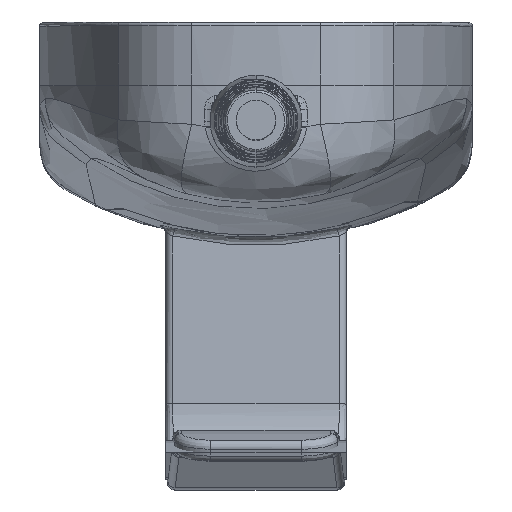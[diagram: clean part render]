
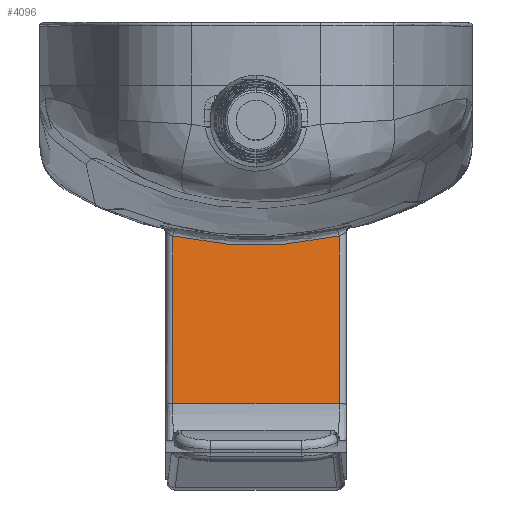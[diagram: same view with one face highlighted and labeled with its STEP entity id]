
A CAD part, top view. The second image highlights one B-rep face of the part: STEP entity #4096.
In plain terms, the highlighted planar face has unit normal (0, 0.101, 0.995).
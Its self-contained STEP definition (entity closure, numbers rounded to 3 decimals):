
#395 = LINE ( 'NONE', #6275, #17078 ) ;
#854 = VERTEX_POINT ( 'NONE', #18101 ) ;
#1171 = EDGE_CURVE ( 'NONE', #14391, #11311, #4710, .T. ) ;
#1755 = CARTESIAN_POINT ( 'NONE',  ( 11.526, -27.735, 31.461 ) ) ;
#1936 = CARTESIAN_POINT ( 'NONE',  ( 9.631, -28.172, 31.506 ) ) ;
#2229 = LINE ( 'NONE', #6962, #2662 ) ;
#2486 = ORIENTED_EDGE ( 'NONE', *, *, #1171, .F. ) ;
#2662 = VECTOR ( 'NONE', #6866, 1000. ) ;
#3286 = CARTESIAN_POINT ( 'NONE',  ( 0., -29.157, 31.606 ) ) ;
#3839 = CARTESIAN_POINT ( 'NONE',  ( -11.526, -27.735, 31.461 ) ) ;
#3848 = VECTOR ( 'NONE', #9122, 1000. ) ;
#4096 = ADVANCED_FACE ( 'NONE', ( #11585 ), #5842, .F. ) ;
#4681 = CARTESIAN_POINT ( 'NONE',  ( 12.5, -51.008, 33.82 ) ) ;
#4710 = LINE ( 'NONE', #17771, #3848 ) ;
#5842 = PLANE ( 'NONE',  #7067 ) ;
#6275 = CARTESIAN_POINT ( 'NONE',  ( -11.526, -27.735, 31.461 ) ) ;
#6866 = DIRECTION ( 'NONE',  ( 0., 0.995, -0.101 ) ) ;
#6962 = CARTESIAN_POINT ( 'NONE',  ( 11.526, -51.008, 33.82 ) ) ;
#7067 = AXIS2_PLACEMENT_3D ( 'NONE', #4681, #8903, #7374 ) ;
#7339 = B_SPLINE_CURVE_WITH_KNOTS ( 'NONE', 3,
 ( #18100, #15026, #10512, #3286, #9068, #1936, #1755 ),
 .UNSPECIFIED., .F., .F.,
 ( 4, 1, 1, 1, 4 ),
 ( 0., 0.25, 0.5, 0.75, 1. ),
 .UNSPECIFIED. ) ;
#7374 = DIRECTION ( 'NONE',  ( 0., 0.995, -0.101 ) ) ;
#8349 = EDGE_CURVE ( 'NONE', #9388, #854, #7339, .T. ) ;
#8903 = DIRECTION ( 'NONE',  ( 0., -0.101, -0.995 ) ) ;
#9018 = EDGE_CURVE ( 'NONE', #14391, #854, #2229, .T. ) ;
#9068 = CARTESIAN_POINT ( 'NONE',  ( 5.817, -28.827, 31.572 ) ) ;
#9122 = DIRECTION ( 'NONE',  ( -1., 0., 0. ) ) ;
#9388 = VERTEX_POINT ( 'NONE', #3839 ) ;
#10099 = ORIENTED_EDGE ( 'NONE', *, *, #8349, .F. ) ;
#10512 = CARTESIAN_POINT ( 'NONE',  ( -5.817, -28.827, 31.572 ) ) ;
#11289 = CARTESIAN_POINT ( 'NONE',  ( 11.526, -51.008, 33.82 ) ) ;
#11311 = VERTEX_POINT ( 'NONE', #18895 ) ;
#11585 = FACE_OUTER_BOUND ( 'NONE', #13376, .T. ) ;
#12017 = EDGE_CURVE ( 'NONE', #9388, #11311, #395, .T. ) ;
#13376 = EDGE_LOOP ( 'NONE', ( #15713, #2486, #18958, #10099 ) ) ;
#14391 = VERTEX_POINT ( 'NONE', #11289 ) ;
#15026 = CARTESIAN_POINT ( 'NONE',  ( -9.631, -28.172, 31.506 ) ) ;
#15713 = ORIENTED_EDGE ( 'NONE', *, *, #12017, .T. ) ;
#17078 = VECTOR ( 'NONE', #17992, 1000. ) ;
#17771 = CARTESIAN_POINT ( 'NONE',  ( 11.526, -51.008, 33.82 ) ) ;
#17992 = DIRECTION ( 'NONE',  ( 0., -0.995, 0.101 ) ) ;
#18100 = CARTESIAN_POINT ( 'NONE',  ( -11.526, -27.735, 31.461 ) ) ;
#18101 = CARTESIAN_POINT ( 'NONE',  ( 11.526, -27.735, 31.461 ) ) ;
#18895 = CARTESIAN_POINT ( 'NONE',  ( -11.526, -51.008, 33.82 ) ) ;
#18958 = ORIENTED_EDGE ( 'NONE', *, *, #9018, .T. ) ;
